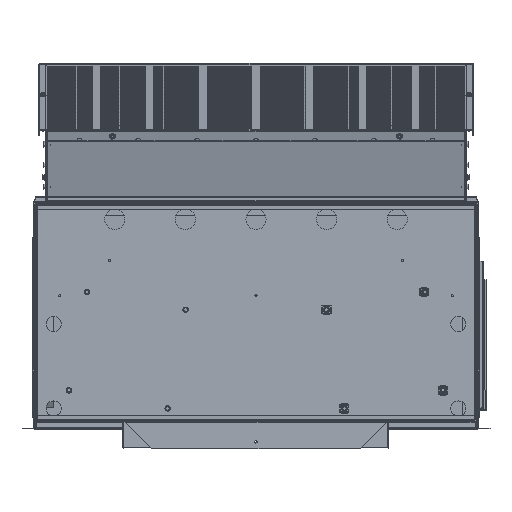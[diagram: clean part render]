
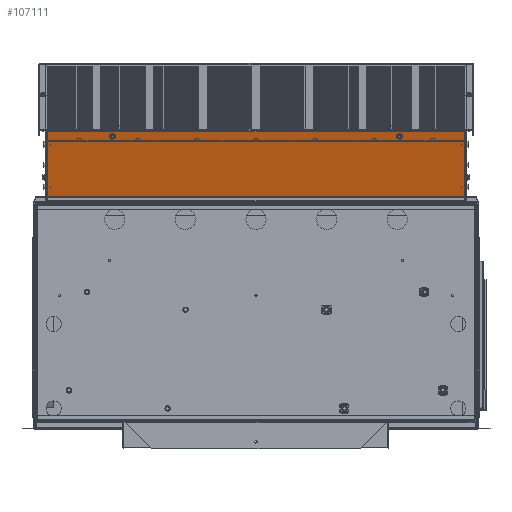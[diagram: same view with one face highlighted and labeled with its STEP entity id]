
A CAD part, front view. The second image highlights one B-rep face of the part: STEP entity #107111.
In plain terms, the highlighted planar face has unit normal (0, -0.965, -0.262).
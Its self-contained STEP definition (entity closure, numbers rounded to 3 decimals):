
#1529 = ORIENTED_EDGE ( 'NONE', *, *, #34265, .F. ) ;
#2809 = CARTESIAN_POINT ( 'NONE',  ( -27.185, -46.098, 21.431 ) ) ;
#4050 = EDGE_LOOP ( 'NONE', ( #156481, #217965, #161669, #5586 ) ) ;
#5586 = ORIENTED_EDGE ( 'NONE', *, *, #72867, .F. ) ;
#6718 = CARTESIAN_POINT ( 'NONE',  ( -0.797, -44.738, 16.41 ) ) ;
#7642 = VERTEX_POINT ( 'NONE', #9040 ) ;
#9040 = CARTESIAN_POINT ( 'NONE',  ( -0.881, -46.18, 21.734 ) ) ;
#13825 = CARTESIAN_POINT ( 'NONE',  ( -5.73, -46.098, 21.431 ) ) ;
#15490 = CARTESIAN_POINT ( 'NONE',  ( -27.185, -46.065, 21.31 ) ) ;
#15777 = LINE ( 'NONE', #19172, #69810 ) ;
#15908 = EDGE_CURVE ( 'NONE', #99834, #157897, #151268, .T. ) ;
#19172 = CARTESIAN_POINT ( 'NONE',  ( -0.881, -44.738, 16.41 ) ) ;
#30738 = EDGE_CURVE ( 'NONE', #73721, #232601, #49215, .T. ) ;
#33774 = DIRECTION ( 'NONE',  ( 0., 0.262, -0.965 ) ) ;
#34265 = EDGE_CURVE ( 'NONE', #35622, #235331, #179230, .T. ) ;
#35622 = VERTEX_POINT ( 'NONE', #136975 ) ;
#43269 = DIRECTION ( 'NONE',  ( 0., -0.262, 0.965 ) ) ;
#46756 = VECTOR ( 'NONE', #62848, 39.37 ) ;
#49215 = LINE ( 'NONE', #190020, #46756 ) ;
#53442 = CARTESIAN_POINT ( 'NONE',  ( -27.185, -46.065, 21.31 ) ) ;
#56262 = DIRECTION ( 'NONE',  ( 1., 0., 0. ) ) ;
#57799 = AXIS2_PLACEMENT_3D ( 'NONE', #53442, #180608, #71698 ) ;
#60776 = PLANE ( 'NONE',  #145474 ) ;
#62848 = DIRECTION ( 'NONE',  ( 0., -0.262, 0.965 ) ) ;
#63585 = CARTESIAN_POINT ( 'NONE',  ( -27.185, -46.033, 21.19 ) ) ;
#69810 = VECTOR ( 'NONE', #146280, 39.37 ) ;
#70184 = EDGE_CURVE ( 'NONE', #157897, #99834, #124992, .T. ) ;
#71698 = DIRECTION ( 'NONE',  ( 0., 0.262, -0.965 ) ) ;
#72532 = AXIS2_PLACEMENT_3D ( 'NONE', #76346, #203632, #94644 ) ;
#72867 = EDGE_CURVE ( 'NONE', #7642, #77043, #15777, .T. ) ;
#73721 = VERTEX_POINT ( 'NONE', #176063 ) ;
#74049 = VECTOR ( 'NONE', #106493, 39.37 ) ;
#75332 = CIRCLE ( 'NONE', #175937, 0.125 ) ;
#76346 = CARTESIAN_POINT ( 'NONE',  ( -5.73, -46.065, 21.31 ) ) ;
#76776 = DIRECTION ( 'NONE',  ( 0., -0.965, -0.262 ) ) ;
#77043 = VERTEX_POINT ( 'NONE', #180836 ) ;
#88714 = ORIENTED_EDGE ( 'NONE', *, *, #15908, .F. ) ;
#94644 = DIRECTION ( 'NONE',  ( 0., 0.262, -0.965 ) ) ;
#99834 = VERTEX_POINT ( 'NONE', #2809 ) ;
#104518 = FACE_BOUND ( 'NONE', #108870, .T. ) ;
#106493 = DIRECTION ( 'NONE',  ( -1., 0., 0. ) ) ;
#107111 = ADVANCED_FACE ( 'NONE', ( #147230, #104518, #195617 ), #60776, .F. ) ;
#108150 = EDGE_CURVE ( 'NONE', #232601, #7642, #189468, .T. ) ;
#108870 = EDGE_LOOP ( 'NONE', ( #1529, #132408 ) ) ;
#121685 = EDGE_CURVE ( 'NONE', #77043, #73721, #219218, .T. ) ;
#124992 = CIRCLE ( 'NONE', #57799, 0.125 ) ;
#132408 = ORIENTED_EDGE ( 'NONE', *, *, #180701, .F. ) ;
#135103 = EDGE_LOOP ( 'NONE', ( #217086, #88714 ) ) ;
#136975 = CARTESIAN_POINT ( 'NONE',  ( -5.73, -46.033, 21.19 ) ) ;
#141078 = VECTOR ( 'NONE', #56262, 39.37 ) ;
#142635 = DIRECTION ( 'NONE',  ( 0., -0.965, -0.262 ) ) ;
#145474 = AXIS2_PLACEMENT_3D ( 'NONE', #6718, #152146, #43269 ) ;
#146280 = DIRECTION ( 'NONE',  ( 0., 0.262, -0.965 ) ) ;
#147230 = FACE_OUTER_BOUND ( 'NONE', #4050, .T. ) ;
#151268 = CIRCLE ( 'NONE', #170828, 0.125 ) ;
#152146 = DIRECTION ( 'NONE',  ( 0., 0.965, 0.262 ) ) ;
#156481 = ORIENTED_EDGE ( 'NONE', *, *, #108150, .F. ) ;
#157897 = VERTEX_POINT ( 'NONE', #63585 ) ;
#161669 = ORIENTED_EDGE ( 'NONE', *, *, #121685, .F. ) ;
#165193 = CARTESIAN_POINT ( 'NONE',  ( -0.797, -46.18, 21.734 ) ) ;
#170828 = AXIS2_PLACEMENT_3D ( 'NONE', #15490, #142635, #33774 ) ;
#175937 = AXIS2_PLACEMENT_3D ( 'NONE', #185704, #76776, #204031 ) ;
#176063 = CARTESIAN_POINT ( 'NONE',  ( -32.034, -44.754, 16.472 ) ) ;
#179230 = CIRCLE ( 'NONE', #72532, 0.125 ) ;
#180608 = DIRECTION ( 'NONE',  ( 0., -0.965, -0.262 ) ) ;
#180701 = EDGE_CURVE ( 'NONE', #235331, #35622, #75332, .T. ) ;
#180836 = CARTESIAN_POINT ( 'NONE',  ( -0.881, -44.754, 16.472 ) ) ;
#182378 = CARTESIAN_POINT ( 'NONE',  ( -32.034, -46.18, 21.734 ) ) ;
#185704 = CARTESIAN_POINT ( 'NONE',  ( -5.73, -46.065, 21.31 ) ) ;
#189468 = LINE ( 'NONE', #165193, #141078 ) ;
#190020 = CARTESIAN_POINT ( 'NONE',  ( -32.034, -44.738, 16.41 ) ) ;
#195617 = FACE_BOUND ( 'NONE', #135103, .T. ) ;
#197187 = CARTESIAN_POINT ( 'NONE',  ( -0.797, -44.754, 16.472 ) ) ;
#203632 = DIRECTION ( 'NONE',  ( 0., -0.965, -0.262 ) ) ;
#204031 = DIRECTION ( 'NONE',  ( 0., 0.262, -0.965 ) ) ;
#217086 = ORIENTED_EDGE ( 'NONE', *, *, #70184, .F. ) ;
#217965 = ORIENTED_EDGE ( 'NONE', *, *, #30738, .F. ) ;
#219218 = LINE ( 'NONE', #197187, #74049 ) ;
#232601 = VERTEX_POINT ( 'NONE', #182378 ) ;
#235331 = VERTEX_POINT ( 'NONE', #13825 ) ;
